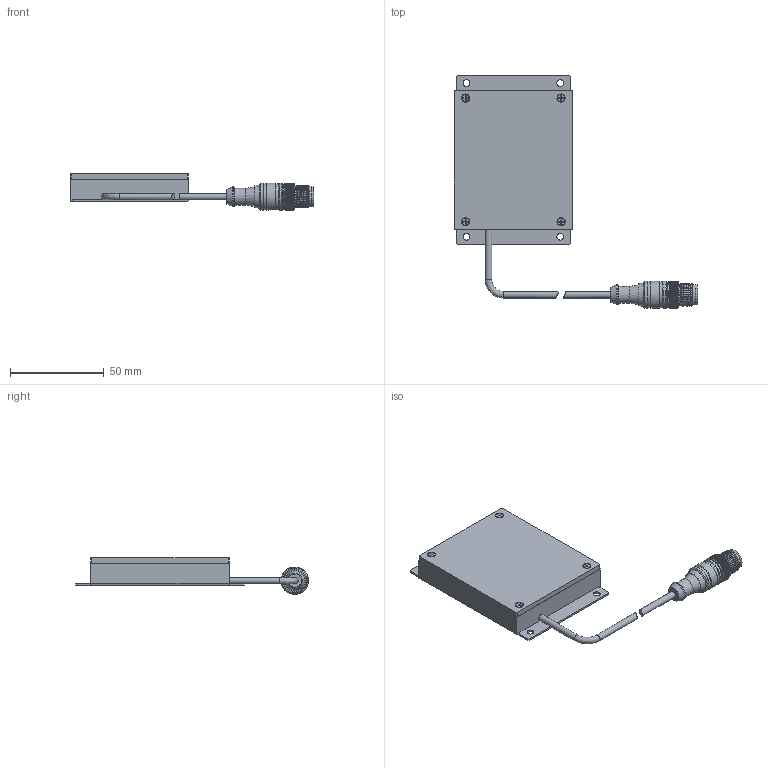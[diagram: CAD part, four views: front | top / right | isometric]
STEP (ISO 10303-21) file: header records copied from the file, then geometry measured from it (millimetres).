
FILE_DESCRIPTION (( 'STEP AP203' ), '1' );
FILE_NAME ('EFFI-SBHS-60-60-x (EFFI).STEP', '2019-07-10T02:26:40', ( '' ), ( '' ), 'SwSTEP 2.0', 'SolidWorks 2011', '' );
FILE_SCHEMA (( 'CONFIG_CONTROL_DESIGN' ));
Products named in the file (1): EFFI-SBHS-60-60-x (EFFI)
Bounding box: 129.9 x 124.25 x 19.5 mm (x, y, z)
Surface area: 24120.8 mm2 (no closed solid volume)
Topology: 0 solids, 850 shells, 1893 faces, 7314 edges, 6224 vertices
Faces by surface type: bspline 1455, cylinder 197, plane 145, cone 84, torus 12
Full cylindrical faces by diameter (mm): 1 x6, 3.5 x3, 3.6 x4, 4 x8, 5 x1, 8.3 x1, 10.11 x1, 10.5 x1, 10.7 x1, 10.9 x1, 11 x1, 12 x6, 13.75 x1, 13.9 x2, 14.499 x1, 14.5 x2
Entity records: 92496 total; most frequent: CARTESIAN_POINT 55041, ORIENTED_EDGE 8452, EDGE_CURVE 7154, VERTEX_POINT 6170, B_SPLINE_CURVE_WITH_KNOTS 4236, DIRECTION 2055, EDGE_LOOP 2039, FACE_OUTER_BOUND 1947
